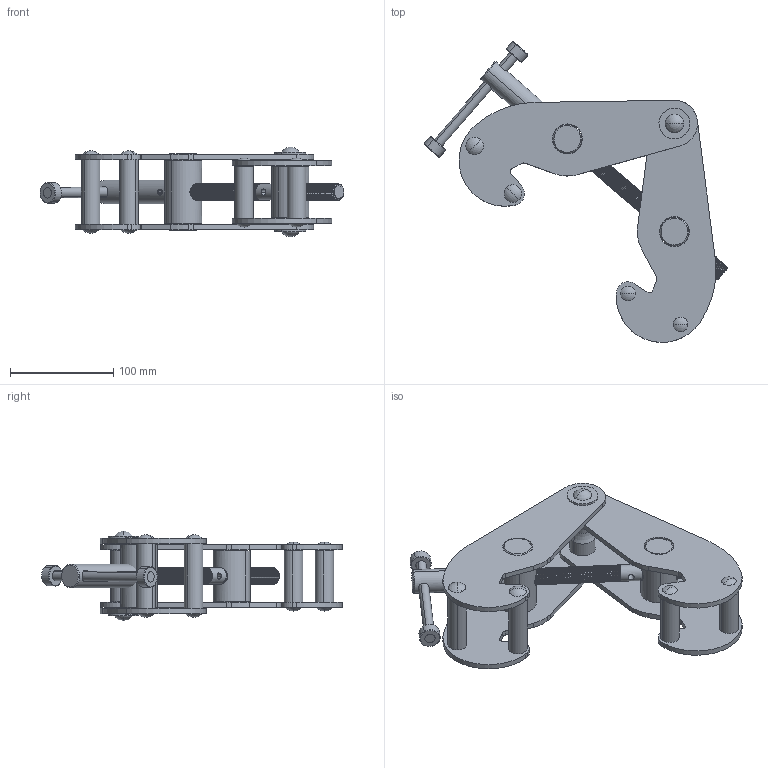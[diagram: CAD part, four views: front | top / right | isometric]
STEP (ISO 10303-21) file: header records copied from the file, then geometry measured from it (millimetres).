
FILE_DESCRIPTION (( 'STEP AP214' ), '1' );
FILE_NAME ('YC馱趼詩標ヵ.STEP', '2023-02-17T04:28:31', ( '' ), ( '' ), 'SwSTEP 2.0', 'SolidWorks 2010', '' );
FILE_SCHEMA (( 'AUTOMOTIVE_DESIGN' ));
Length unit declared in the file: millimetre
Products named in the file (16): 外垫圈; 裂粣; YC馱趼詩標ヵ; 蹟譫杶1; 耜啣; 内垫圈; 蹟譫杶2; 攃隊1; 攃隊2; 忒梟; 蹟裝; 蹟譫2; 蹟譫1; 手柄套圈; 粟俶埴翐种; 嫖裝
Assembly tree (23 placements, depth 2):
  YC馱趼詩標ヵ
    蹟譫杶2
    外垫圈  x2
    嫖裝
    蹟譫1
    攃隊1  x2
    内垫圈  x2
    蹟裝
    耜啣  x4
    粟俶埴翐种
    忒梟
    手柄套圈  x2
    蹟譫2
    攃隊2  x2
    裂粣
    蹟譫杶1
Bounding box: 295 x 292.07 x 87 mm (x, y, z)
Volume: 560416.6 mm3; surface area: 238030.8 mm2
Topology: 23 solids, 23 shells, 441 faces, 1112 edges, 724 vertices
Faces by surface type: cylinder 301, plane 85, cone 25, torus 16, sphere 8, bspline 6
Full cylindrical faces by diameter (mm): 16 x119
Entity records: 44288 total; most frequent: CARTESIAN_POINT 39023, DIRECTION 1010, ORIENTED_EDGE 876, EDGE_CURVE 438, AXIS2_PLACEMENT_3D 427, VERTEX_POINT 284, EDGE_LOOP 254, CIRCLE 210
